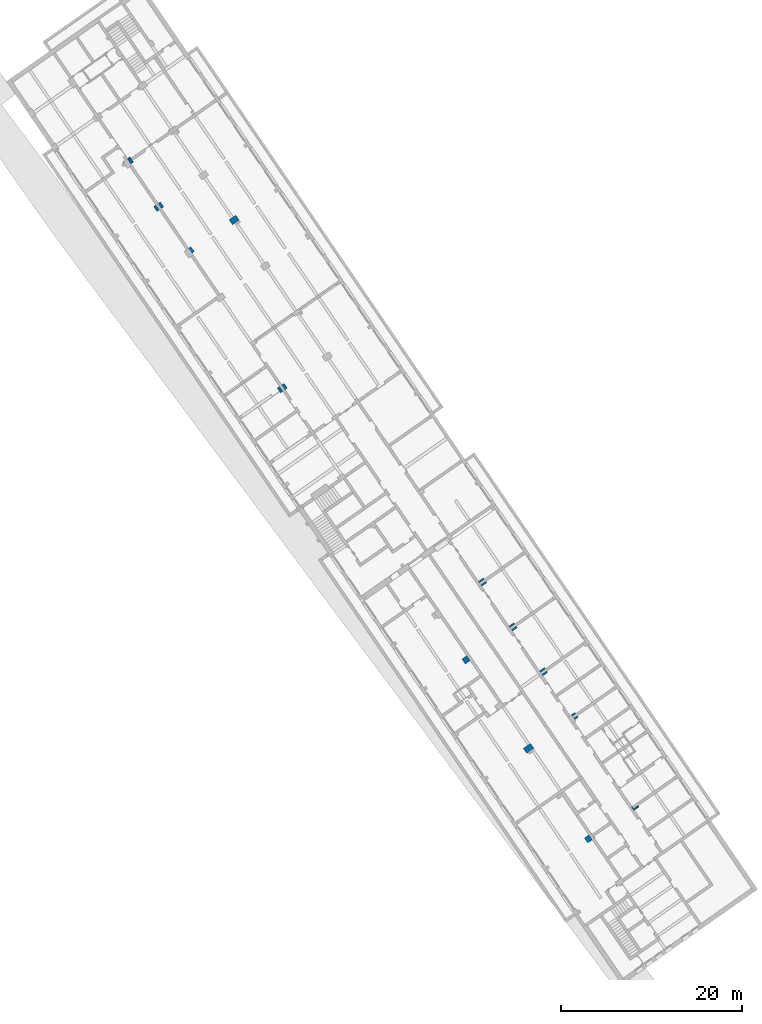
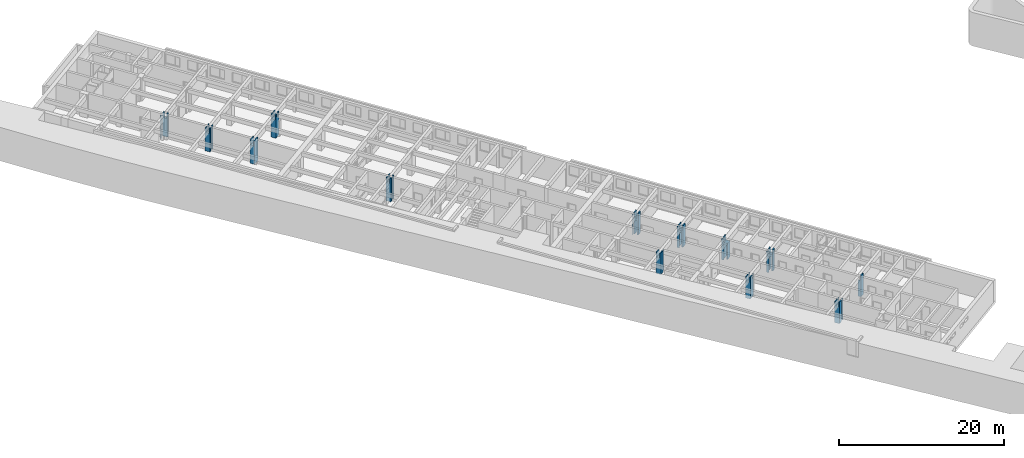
# One storey, part 86 of 112: 13 columns.
"""IFC2X3 building model written with IfcOpenShell, lengths in millimetres."""

from ifc_helpers import new_model, entity, si_unit, converted_unit, derived_unit, direction, frame, origin, place, context, subcontext, project, spatial, faceted_brep, source, transform, mapped, material, type_object, type_shapes, element, save


model = new_model("IFC2X3")

# Units and contexts
model_context = context("Model", 3, precision=0.01, world=origin(), true_north=direction((6.123031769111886e-17, 1.0)))
body_context = subcontext(model_context, "Body", "Model", "MODEL_VIEW")
ifc_project = project(units=[si_unit("LENGTHUNIT", "METRE", prefix="MILLI"), si_unit("AREAUNIT", "SQUARE_METRE"), si_unit("VOLUMEUNIT", "CUBIC_METRE"), converted_unit("PLANEANGLEUNIT", "DEGREE", entity("IfcRatioMeasure", 0.017453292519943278), si_unit("PLANEANGLEUNIT", "RADIAN"), dimensions=[0, 0, 0, 0, 0, 0, 0]), si_unit("MASSUNIT", "GRAM", prefix="KILO"), derived_unit("MASSDENSITYUNIT", [(si_unit("MASSUNIT", "GRAM", prefix="KILO"), 1), (si_unit("LENGTHUNIT", "METRE"), -3)]), derived_unit("MOMENTOFINERTIAUNIT", [(si_unit("LENGTHUNIT", "METRE"), 4)]), si_unit("TIMEUNIT", "SECOND"), si_unit("FREQUENCYUNIT", "HERTZ"), si_unit("THERMODYNAMICTEMPERATUREUNIT", "DEGREE_CELSIUS"), derived_unit("THERMALTRANSMITTANCEUNIT", [(si_unit("MASSUNIT", "GRAM", prefix="KILO"), 1), (si_unit("THERMODYNAMICTEMPERATUREUNIT", "KELVIN"), -1), (si_unit("TIMEUNIT", "SECOND"), -3)]), derived_unit("THERMALCONDUCTANCEUNIT", [(si_unit("MASSUNIT", "GRAM", prefix="KILO"), 1), (si_unit("LENGTHUNIT", "METRE"), 1), (si_unit("THERMODYNAMICTEMPERATUREUNIT", "KELVIN"), -1), (si_unit("TIMEUNIT", "SECOND"), -3)]), derived_unit("VOLUMETRICFLOWRATEUNIT", [(si_unit("LENGTHUNIT", "METRE"), 3), (si_unit("TIMEUNIT", "SECOND"), -1)]), derived_unit("MASSFLOWRATEUNIT", [(si_unit("MASSUNIT", "GRAM", prefix="KILO"), 1), (si_unit("TIMEUNIT", "SECOND"), -1)]), derived_unit("ROTATIONALFREQUENCYUNIT", [(si_unit("TIMEUNIT", "SECOND"), -1)]), si_unit("ELECTRICCURRENTUNIT", "AMPERE"), si_unit("ELECTRICVOLTAGEUNIT", "VOLT"), si_unit("POWERUNIT", "WATT"), converted_unit("FORCEUNIT", "KIP", entity("IfcRatioMeasure", 2.088543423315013e-05), si_unit("FORCEUNIT", "NEWTON"), dimensions=[1, 1, -2, 0, 0, 0, 0]), si_unit("ILLUMINANCEUNIT", "LUX"), si_unit("LUMINOUSFLUXUNIT", "LUMEN"), si_unit("LUMINOUSINTENSITYUNIT", "CANDELA"), derived_unit("USERDEFINED", [(si_unit("MASSUNIT", "GRAM", prefix="KILO"), -1), (si_unit("LENGTHUNIT", "METRE"), -2), (si_unit("TIMEUNIT", "SECOND"), 3), (si_unit("LUMINOUSFLUXUNIT", "LUMEN"), 1)]), derived_unit("USERDEFINED", [(si_unit("MASSUNIT", "GRAM", prefix="KILO"), 1), (si_unit("LENGTHUNIT", "METRE"), 3), (si_unit("TIMEUNIT", "SECOND"), -3), (si_unit("ELECTRICCURRENTUNIT", "AMPERE"), -2)]), derived_unit("USERDEFINED", [(si_unit("LENGTHUNIT", "METRE"), 2), (si_unit("TIMEUNIT", "SECOND"), -2)]), derived_unit("SOUNDPOWERUNIT", [(si_unit("MASSUNIT", "GRAM", prefix="KILO"), 1), (si_unit("LENGTHUNIT", "METRE"), 2), (si_unit("TIMEUNIT", "SECOND"), -3)]), derived_unit("SOUNDPRESSUREUNIT", [(si_unit("MASSUNIT", "GRAM", prefix="KILO"), 1), (si_unit("LENGTHUNIT", "METRE"), -1), (si_unit("TIMEUNIT", "SECOND"), -2)]), derived_unit("LINEARVELOCITYUNIT", [(si_unit("LENGTHUNIT", "METRE"), 1), (si_unit("TIMEUNIT", "SECOND"), -1)]), si_unit("PRESSUREUNIT", "PASCAL"), derived_unit("USERDEFINED", [(si_unit("LENGTHUNIT", "METRE"), -2), (si_unit("MASSUNIT", "GRAM", prefix="KILO"), 1), (si_unit("TIMEUNIT", "SECOND"), -2)]), derived_unit("LINEARFORCEUNIT", [(si_unit("MASSUNIT", "GRAM", prefix="KILO"), 1), (si_unit("LENGTHUNIT", "METRE"), 1), (si_unit("TIMEUNIT", "SECOND"), -2), (si_unit("LENGTHUNIT", "METRE"), -1)]), derived_unit("PLANARFORCEUNIT", [(si_unit("MASSUNIT", "GRAM", prefix="KILO"), 1), (si_unit("LENGTHUNIT", "METRE"), 1), (si_unit("TIMEUNIT", "SECOND"), -2), (si_unit("LENGTHUNIT", "METRE"), -2)]), derived_unit("SPECIFICHEATCAPACITYUNIT", [(si_unit("LENGTHUNIT", "METRE"), 2), (si_unit("TIMEUNIT", "SECOND"), -2), (si_unit("THERMODYNAMICTEMPERATUREUNIT", "KELVIN"), -1)]), derived_unit("VAPORPERMEABILITYUNIT", [(si_unit("TIMEUNIT", "SECOND"), 1), (si_unit("LENGTHUNIT", "METRE"), -1)]), derived_unit("DYNAMICVISCOSITYUNIT", [(si_unit("MASSUNIT", "GRAM", prefix="KILO"), 1), (si_unit("LENGTHUNIT", "METRE"), -1), (si_unit("TIMEUNIT", "SECOND"), -1)]), derived_unit("THERMALEXPANSIONCOEFFICIENTUNIT", [(si_unit("THERMODYNAMICTEMPERATUREUNIT", "KELVIN"), -1)])], contexts=[model_context])

# Site, building, storey
site_placement = place(None, frame((0.0, 0.0, 0.0), z_axis=(0.0, 0.0, 1.0), x_axis=(0.8191520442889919, 0.5735764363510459, 0.0)))
site = spatial("IfcSite", under=ifc_project, at=site_placement, Name="Default", CompositionType="ELEMENT")
building_placement = place(site_placement, origin())
building = spatial("IfcBuilding", under=site, at=building_placement, CompositionType="ELEMENT")
storey_placement = place(building_placement, frame((0.0, 0.0, -3600.0)))
storey = spatial("IfcBuildingStorey", under=building, at=storey_placement, Name="0.UG -3.60", CompositionType="ELEMENT", Elevation=-3600.0000000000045)

# Columns
ifc_material = material(Name="Analytical Wall Surface_CJC")
column_type_1 = type_object("IfcColumnType", Name="Columns_Rectangular:95x65", PredefinedType="COLUMN", material=ifc_material)
shared_shape_1 = source(origin(), body_context, "Body", "Brep", [
    faceted_brep([(0.0, 650.0, 3150.0), (0.0, 500.0, 3150.0), (601.7337061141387, 500.0, 3150.0), (603.6432989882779, 650.0, 3150.0), (0.0, 650.0, 0.0), (950.0, 650.0, 0.0), (950.0, 0.0, 0.0), (692.8303758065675, 0.0, 0.0), (192.83037580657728, 0.0, 0.0), (0.0, 0.0, 0.0), (0.0, 0.0, 3150.0), (0.0, 150.0, 3150.0), (0.0, 150.0, 2400.0), (0.0, 500.0, 2400.0), (950.0, 0.0, 3150.0), (895.3927058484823, 0.0, 3150.0), (895.3927058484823, 0.0, 2600.0), (595.368396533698, 0.0, 2600.0), (595.3683965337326, 0.0, 3150.0), (192.83037580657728, 0.0, 3150.0), (950.0, 650.0, 3150.0), (950.0, 500.0, 3150.0), (950.0, 500.0, 2400.0), (950.0, 150.0, 2400.0), (950.0, 150.0, 3150.0), (603.6432989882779, 650.0, 2600.0), (903.6676083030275, 650.0, 2600.0), (903.6676083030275, 650.0, 3150.0), (901.7580154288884, 500.0, 3150.0), (901.7580154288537, 500.0, 2600.0), (601.7337061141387, 500.0, 2600.0), (597.2779894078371, 150.0, 3150.0), (597.2779894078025, 150.0, 2600.0), (897.3022987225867, 150.0, 2600.0), (897.3022987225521, 150.0, 3150.0)], [[[0, 1, 2, 3]], [[4, 5, 6, 7, 8, 9]], [[4, 9, 10, 11, 12, 13, 1, 0]], [[9, 8, 7, 6, 14, 15, 16, 17, 18, 19, 10]], [[6, 5, 20, 21, 22, 23, 24, 14]], [[5, 4, 0, 3, 25, 26, 27, 20]], [[13, 22, 21, 28, 29, 30, 2, 1]], [[23, 12, 11, 31, 32, 33, 34, 24]], [[22, 13, 12, 23]], [[14, 24, 34, 15]], [[33, 16, 15, 34]], [[30, 25, 3, 2]], [[16, 33, 32, 17]], [[21, 20, 27, 28]], [[11, 10, 19, 18, 31]], [[26, 29, 28, 27]], [[17, 32, 31, 18]], [[29, 26, 25, 30]]]),
])
type_shapes(column_type_1, [shared_shape_1])
column_1_placement = place(storey_placement, frame((-217859.39284565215, 79071.35891435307, 300.0)))
element("IfcColumn", 1, at=column_1_placement, inside=storey, type_object=column_type_1, material=ifc_material, Name="Columns_Rectangular:95x65", ObjectType="Columns_Rectangular:95x65", context=body_context, shape_type="MappedRepresentation", body=[
    mapped(shared_shape_1, transform((0.0, 0.0, 0.0), scale=1.0)),
])
column_type_2 = type_object("IfcColumnType", Name="Columns_Rectangular:95x65", PredefinedType="COLUMN", material=ifc_material)
shared_shape_2 = source(origin(), body_context, "Body", "Brep", [
    faceted_brep([(0.0, 650.0, 3150.0), (0.0, 500.9657425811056, 3150.0), (652.2624359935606, 500.9657425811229, 3150.0), (654.1597343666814, 650.0, 3150.0), (0.0, 0.0, 0.0), (0.0, 650.0, 0.0), (654.1597343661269, 650.0, 0.0), (645.8848319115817, 0.0, 0.0), (0.0, 0.0, 3150.0), (0.0, 150.96574258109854, 3150.0), (0.0, 150.96574258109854, 2389.777747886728), (0.0, 500.9657425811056, 2389.777747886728), (645.8848319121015, 0.0, 2600.0), (645.8848319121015, 0.0, 3150.0), (654.1597343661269, 650.0, 2600.0), (652.2624359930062, 500.9657425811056, 2389.777747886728), (652.262435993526, 500.9657425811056, 2600.0), (647.8067192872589, 150.96574258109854, 3150.0), (647.8067192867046, 150.96574258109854, 2600.0), (647.8067192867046, 150.96574258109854, 2389.777747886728)], [[[0, 1, 2, 3]], [[4, 5, 6, 7]], [[5, 4, 8, 9, 10, 11, 1, 0]], [[8, 4, 7, 12, 13]], [[5, 0, 3, 14, 6]], [[1, 11, 15, 16, 2]], [[10, 9, 17, 18, 19]], [[3, 2, 16, 14]], [[9, 8, 13, 17]], [[13, 12, 18, 17]], [[7, 6, 14, 16, 15, 19, 18, 12]], [[11, 10, 19, 15]]]),
    faceted_brep([(950.0, 0.0, 3150.0), (950.0, 0.0, 0.0), (950.0, 321.34012666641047, 0.0), (950.0, 321.34012666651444, 2389.777747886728), (950.0, 150.96574258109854, 2389.777747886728), (950.0, 150.96574258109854, 3150.0), (947.8310286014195, 150.96574258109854, 2389.7777478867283), (947.8310286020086, 150.96574258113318, 3150.0), (945.909141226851, 0.0, 3150.0), (945.909141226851, 0.0, 2600.0), (947.8310286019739, 150.96574258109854, 2600.0), (945.9091412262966, 0.0, 0.0)], [[[0, 1, 2, 3, 4, 5]], [[4, 3, 6]], [[0, 5, 7, 8]], [[9, 8, 7, 10]], [[2, 11, 9, 10, 6, 3]], [[2, 1, 11]], [[1, 0, 8, 9, 11]], [[5, 4, 6, 10, 7]]]),
])
type_shapes(column_type_2, [shared_shape_2])
column_2_placement = place(storey_placement, frame((-217757.15414560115, 91070.39317177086, 300.0)))
element("IfcColumn", 2, at=column_2_placement, inside=storey, type_object=column_type_2, material=ifc_material, Name="Columns_Rectangular:95x65", ObjectType="Columns_Rectangular:95x65", context=body_context, shape_type="MappedRepresentation", body=[
    mapped(shared_shape_2, transform((0.0, 0.0, 0.0), scale=1.0)),
])
column_type_3 = type_object("IfcColumnType", Name="Columns_Rectangular:95x65", PredefinedType="COLUMN", material=ifc_material)
shared_shape_3 = source(origin(), body_context, "Body", "Brep", [
    faceted_brep([(604.1354965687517, 650.0, 3150.0), (0.0, 650.0, 3150.0), (0.0, 501.4526929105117, 3150.0), (602.2443973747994, 501.45269291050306, 3150.0), (0.0, 0.0, 0.0), (0.0, 650.0, 0.0), (604.135496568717, 650.0, 0.0), (595.8605941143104, 0.0, 0.0), (0.0, 0.0, 3150.0), (0.0, 151.4526929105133, 3150.0), (0.0, 151.45269291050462, 2400.0), (0.0, 501.4526929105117, 2400.0), (595.8605941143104, 0.0, 3150.0), (602.244397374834, 501.45269291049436, 2400.0), (597.788680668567, 151.45269290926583, 2400.0), (597.788680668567, 151.45269291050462, 3150.0)], [[[0, 1, 2, 3]], [[4, 5, 6, 7]], [[5, 4, 8, 9, 10, 11, 2, 1]], [[8, 4, 7, 12]], [[5, 1, 0, 6]], [[12, 7, 6, 0, 3, 13, 14, 15]], [[14, 10, 9, 15]], [[8, 12, 15, 9]], [[13, 11, 10, 14]], [[11, 13, 3, 2]]]),
    faceted_brep([(950.0, 0.0, 3150.0), (950.0, 0.0, 0.0), (950.0, 201.45269291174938, 0.0), (950.0, 201.45269291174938, 2100.0), (950.0, 501.4526929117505, 2100.0), (950.0, 501.4526929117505, 0.0), (950.0, 650.0, 0.0), (950.0, 650.0, 3150.0), (950.0, 501.4526929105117, 3150.0), (950.0, 501.45269291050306, 2400.0), (950.0, 151.4526929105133, 2400.0), (950.0, 151.45269291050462, 3150.0), (895.8849034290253, 0.0, 0.0), (895.8849034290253, 0.0, 3150.0), (897.8129899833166, 151.45269290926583, 3150.0), (897.8129899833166, 151.45269291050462, 2400.0), (902.2687066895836, 501.4526929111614, 2400.0), (902.2687066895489, 501.45269291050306, 3150.0), (904.1598058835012, 650.0, 3150.0), (904.1598058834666, 650.0, 0.0), (902.2687066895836, 501.4526929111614, 0.0), (902.2687066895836, 501.4526929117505, 2100.0), (898.4495209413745, 201.45269291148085, 2100.0), (898.4495209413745, 201.45269291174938, 0.0)], [[[0, 1, 2, 3, 4, 5, 6, 7, 8, 9, 10, 11]], [[12, 13, 14, 15, 16, 17, 18, 19, 20, 21, 22, 23]], [[4, 21, 20, 5]], [[22, 3, 2, 23]], [[21, 4, 3, 22]], [[7, 18, 17, 8]], [[16, 9, 8, 17]], [[9, 16, 15, 10]], [[10, 15, 14, 11]], [[13, 0, 11, 14]], [[1, 12, 23, 2]], [[1, 0, 13, 12]], [[7, 6, 19, 18]], [[19, 6, 5, 20]]]),
])
type_shapes(column_type_3, [shared_shape_3])
column_3_placement = place(storey_placement, frame((-218012.67096684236, 67069.90622144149, 300.0)))
element("IfcColumn", 3, at=column_3_placement, inside=storey, type_object=column_type_3, material=ifc_material, Name="Columns_Rectangular:95x65", ObjectType="Columns_Rectangular:95x65", context=body_context, shape_type="MappedRepresentation", body=[
    mapped(shared_shape_3, transform((0.0, 0.0, 0.0), scale=1.0)),
])
column_type_4 = type_object("IfcColumnType", Name="Columns_Rectangular:95x65", PredefinedType="COLUMN", material=ifc_material)
shared_shape_4 = source(origin(), body_context, "Body", "Brep", [
    faceted_brep([(0.0, 650.0, 3150.0), (0.0, 500.4861469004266, 3150.0), (2.207712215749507, 500.4861469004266, 3150.0), (4.111116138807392, 650.0, 3150.0), (0.0, 650.0, 0.0), (0.0, 327.06864160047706, 0.0), (0.0, 327.06864160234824, 2400.0), (0.0, 500.4861469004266, 2400.0), (4.111116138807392, 650.0, 0.0), (2.207712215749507, 500.4861469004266, 2400.0)], [[[0, 1, 2, 3]], [[0, 4, 5, 6, 7, 1]], [[4, 0, 3, 8]], [[3, 2, 9, 6, 5, 8]], [[1, 7, 9, 2]], [[7, 6, 9]], [[4, 8, 5]]]),
    faceted_brep([(950.0, 175.48614690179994, 0.0), (950.0, 0.0, 0.0), (495.8767292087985, 0.0, 0.0), (498.1107765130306, 175.48614690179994, 0.0), (950.0, 0.0, 3150.0), (495.8767292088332, 0.0, 3150.0), (950.0, 175.48614690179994, 2100.0), (950.0, 475.486146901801, 2100.0), (950.0, 475.486146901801, 0.0), (950.0, 650.0, 0.0), (950.0, 650.0, 3150.0), (950.0, 500.4861469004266, 3150.0), (950.0, 500.4861469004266, 2400.0), (950.0, 150.48614690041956, 2400.0), (950.0, 150.48614690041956, 3150.0), (498.1107765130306, 175.48614690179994, 2100.0), (501.9299622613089, 475.486146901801, 2100.0), (501.9299622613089, 475.486146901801, 0.0), (502.2482277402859, 500.4861469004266, 3150.0), (502.2482277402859, 500.4861469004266, 2400.0), (497.79251103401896, 150.48614690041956, 2400.0), (497.7925110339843, 150.48614690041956, 3150.0), (504.07060389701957, 643.6352061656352, 3150.0), (504.07060389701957, 643.6352061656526, 0.0), (304.1354254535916, 650.0, 3150.0), (304.086808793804, 646.1811236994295, 3150.0), (304.086808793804, 646.1811236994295, 0.0), (304.1354254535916, 650.0, 0.0)], [[[0, 1, 2, 3]], [[1, 4, 5, 2]], [[4, 1, 0, 6, 7, 8, 9, 10, 11, 12, 13, 14]], [[15, 6, 0, 3]], [[7, 16, 17, 8]], [[6, 15, 16, 7]], [[12, 11, 18, 19]], [[14, 13, 20, 21]], [[13, 12, 19, 20]], [[4, 14, 21, 5]], [[18, 22, 23, 17, 16, 15, 3, 2, 5, 21, 20, 19]], [[11, 10, 24, 25, 22, 18]], [[23, 22, 25, 26]], [[24, 27, 26, 25]], [[9, 8, 17, 23, 26, 27]], [[10, 9, 27, 24]]]),
])
type_shapes(column_type_4, [shared_shape_4])
column_4_placement = place(storey_placement, frame((-211859.42928408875, 79070.87276745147, 300.0)))
element("IfcColumn", 4, at=column_4_placement, inside=storey, type_object=column_type_4, material=ifc_material, Name="Columns_Rectangular:95x65", ObjectType="Columns_Rectangular:95x65", context=body_context, shape_type="MappedRepresentation", body=[
    mapped(shared_shape_4, transform((0.0, 0.0, 0.0), scale=1.0)),
])
column_type_5 = type_object("IfcColumnType", Name="Columns_Rectangular:65x45", PredefinedType="COLUMN", material=ifc_material)
shared_shape_5 = source(origin(), body_context, "Body", "Brep", [
    faceted_brep([(0.0, 0.0, 3150.0), (650.0, 0.0, 3150.0), (650.0, 125.0, 3150.0), (51.54270876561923, 125.0, 3150.0), (0.0, 125.0, 3150.0), (650.0, 0.0, 0.0), (0.0, 0.0, 0.0), (0.0, 450.0, 0.0), (55.680159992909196, 450.0, 0.0), (51.86097424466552, 150.0, 0.0), (650.0, 150.0, 0.0), (55.68015999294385, 450.0, 2400.0), (0.0, 450.0, 2400.0), (0.0, 125.0, 2400.0), (650.0, 150.0, 2400.0), (650.0, 125.0, 2400.0), (51.86097424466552, 150.0, 2400.0), (51.54270876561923, 125.0, 2400.0)], [[[0, 1, 2, 3, 4]], [[5, 6, 7, 8, 9, 10]], [[11, 8, 7, 12]], [[7, 6, 0, 4, 13, 12]], [[1, 0, 6, 5]], [[1, 5, 10, 14, 15, 2]], [[9, 16, 14, 10]], [[16, 9, 8, 11]], [[15, 17, 13, 4, 3, 2]], [[13, 17, 15, 14, 16, 11, 12]]]),
])
type_shapes(column_type_5, [shared_shape_5])
column_5_placement = place(storey_placement, frame((-211765.96311796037, 67096.3589143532, 300.0)))
element("IfcColumn", 5, at=column_5_placement, inside=storey, type_object=column_type_5, material=ifc_material, Name="Columns_Rectangular:65x45", ObjectType="Columns_Rectangular:65x45", context=body_context, shape_type="MappedRepresentation", body=[
    mapped(shared_shape_5, transform((0.0, 0.0, 0.0), scale=1.0)),
])
column_type_6 = type_object("IfcColumnType", Name="Columns_Rectangular:95x65", PredefinedType="COLUMN", material=ifc_material)
shared_shape_6 = source(origin(), body_context, "Body", "Brep", [
    faceted_brep([(0.0, 650.0, 3150.0), (0.0, 500.0, 3150.0), (2.201523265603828, 500.0, 3150.0), (4.11111613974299, 650.0, 3150.0), (0.0, 650.0, 0.0), (0.0, 327.06864153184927, 0.0), (0.0, 327.06864153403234, 2100.0), (0.0, 500.0, 2100.0), (0.0, 500.0, 2400.0), (4.11111613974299, 650.0, 0.0), (2.201523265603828, 500.0, 2100.0), (2.201523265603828, 500.0, 2400.0)], [[[0, 1, 2, 3]], [[0, 4, 5, 6, 7, 8, 1]], [[4, 0, 3, 9]], [[7, 10, 11, 8]], [[10, 7, 6]], [[3, 2, 11, 10, 6, 5, 9]], [[1, 8, 11, 2]], [[4, 9, 5]]]),
    faceted_brep([(950.0, 175.0, 0.0), (950.0, 0.0, 0.0), (295.86052299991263, 0.0, 0.0), (298.0883813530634, 175.0, 0.0), (950.0, 0.0, 2400.0), (295.86052299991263, 0.0, 2400.0), (950.0, 650.0, 0.0), (950.0, 650.0, 3150.0), (950.0, 500.0, 3150.0), (950.0, 500.0, 2400.0), (950.0, 175.0, 2100.0), (950.0, 475.0, 2100.0), (950.0, 475.0, 0.0), (301.9075671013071, 475.0, 2100.0), (301.9075671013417, 475.0, 0.0), (298.0883813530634, 175.0, 2100.0), (302.22583258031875, 500.0, 2400.0), (302.22583258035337, 500.0, 3150.0), (304.1354254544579, 650.0, 3150.0), (304.1354254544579, 650.0, 0.0)], [[[0, 1, 2, 3]], [[1, 4, 5, 2]], [[6, 7, 8, 9, 4, 1, 0, 10, 11, 12]], [[11, 13, 14, 12]], [[15, 10, 0, 3]], [[13, 11, 10, 15]], [[4, 9, 16, 5]], [[9, 8, 17, 16]], [[17, 18, 19, 14, 13, 15, 3, 2, 5, 16]], [[8, 7, 18, 17]], [[6, 12, 14, 19]], [[7, 6, 19, 18]]]),
])
type_shapes(column_type_6, [shared_shape_6])
column_6_placement = place(storey_placement, frame((-211783.03938017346, 85071.35891435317, 300.0)))
element("IfcColumn", 6, at=column_6_placement, inside=storey, type_object=column_type_6, material=ifc_material, Name="Columns_Rectangular:95x65", ObjectType="Columns_Rectangular:95x65", context=body_context, shape_type="MappedRepresentation", body=[
    mapped(shared_shape_6, transform((0.0, 0.0, 0.0), scale=1.0)),
])
column_type_7 = type_object("IfcColumnType", Name="Columns_Rectangular:95x65", PredefinedType="COLUMN", material=ifc_material)
shared_shape_7 = source(origin(), body_context, "Body", "Brep", [
    faceted_brep([(0.0, 650.0, 3150.0), (0.0, 500.0, 3150.0), (2.2015232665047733, 500.0, 3150.0), (4.111116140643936, 650.0, 3150.0), (0.0, 650.0, 0.0), (0.0, 327.0686414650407, 0.0), (0.0, 327.06864146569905, 2389.777747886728), (0.0, 500.0, 2389.777747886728), (4.111116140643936, 650.0, 0.0), (2.2015232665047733, 500.0, 2389.777747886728)], [[[0, 1, 2, 3]], [[0, 4, 5, 6, 7, 1]], [[4, 0, 3, 8]], [[3, 2, 9, 6, 5, 8]], [[1, 7, 9, 2]], [[7, 6, 9]], [[4, 8, 5]]]),
    faceted_brep([(950.0, 175.0, 0.0), (950.0, 0.0, 0.0), (295.86052300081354, 0.0, 0.0), (298.0883813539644, 175.0, 0.0), (950.0, 0.0, 3150.0), (295.86052300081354, 0.0, 3150.0), (950.0, 175.0, 2100.0), (950.0, 475.0, 2100.0), (950.0, 475.0, 0.0), (950.0, 650.0, 0.0), (950.0, 650.0, 3150.0), (950.0, 500.0, 3150.0), (950.0, 500.0, 2389.777747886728), (950.0, 150.0, 2389.777747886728), (950.0, 150.0, 3150.0), (302.22583258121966, 500.0, 3150.0), (302.22583258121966, 500.0, 2389.777747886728), (297.7701158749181, 150.0, 2389.777747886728), (297.7701158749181, 150.0, 3150.0), (301.907567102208, 475.0, 2100.0), (301.907567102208, 475.0, 0.0), (298.0883813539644, 175.0, 2100.0), (304.13542545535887, 650.0, 3150.0), (304.13542545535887, 650.0, 0.0)], [[[0, 1, 2, 3]], [[1, 4, 5, 2]], [[4, 1, 0, 6, 7, 8, 9, 10, 11, 12, 13, 14]], [[12, 11, 15, 16]], [[14, 13, 17, 18]], [[13, 12, 16, 17]], [[8, 7, 19, 20]], [[6, 0, 3, 21]], [[19, 7, 6, 21]], [[4, 14, 18, 5]], [[15, 22, 23, 20, 19, 21, 3, 2, 5, 18, 17, 16]], [[11, 10, 22, 15]], [[9, 8, 20, 23]], [[10, 9, 23, 22]]]),
])
type_shapes(column_type_7, [shared_shape_7])
column_7_placement = place(storey_placement, frame((-211706.65566520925, 91071.35891435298, 300.0)))
element("IfcColumn", 7, at=column_7_placement, inside=storey, type_object=column_type_7, material=ifc_material, Name="Columns_Rectangular:95x65", ObjectType="Columns_Rectangular:95x65", context=body_context, shape_type="MappedRepresentation", body=[
    mapped(shared_shape_7, transform((0.0, 0.0, 0.0), scale=1.0)),
])
column_type_8 = type_object("IfcColumnType", Name="Columns_Rectangular:95x65", PredefinedType="COLUMN", material=ifc_material)
shared_shape_8 = source(origin(), body_context, "Body", "Brep", [
    faceted_brep([(0.4948311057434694, 650.0, 3150.0), (0.0, 650.0, 3150.0), (0.0, 611.1306332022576, 3150.0), (0.0, 650.0, 0.0), (0.0, 611.1306332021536, 0.0), (0.4948311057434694, 650.0, 0.0)], [[[0, 1, 2]], [[1, 3, 4, 2]], [[3, 1, 0, 5]], [[0, 2, 4, 5]], [[3, 5, 4]]]),
    faceted_brep([(950.0, 175.0, 0.0), (950.0, 0.0, 0.0), (292.2442379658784, 0.0, 0.0), (294.4720963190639, 175.0, 0.0), (950.0, 0.0, 3150.0), (292.2442379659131, 0.0, 3150.0), (950.0, 175.0, 2100.0), (950.0, 475.0, 2100.0), (950.0, 475.0, 0.0), (950.0, 650.0, 0.0), (950.0, 650.0, 3150.0), (950.0, 500.0, 3150.0), (950.0, 500.0, 2400.0), (950.0, 150.0, 2400.0), (950.0, 150.0, 3150.0), (298.60954754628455, 500.0, 3150.0), (298.6095475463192, 500.0, 2400.0), (294.15383083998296, 150.0, 2400.0), (294.15383084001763, 150.0, 3150.0), (298.2912820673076, 475.0, 2100.0), (298.2912820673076, 475.0, 0.0), (294.4720963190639, 175.0, 2100.0), (300.51914042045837, 650.0, 3150.0), (300.51914042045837, 650.0, 0.0)], [[[0, 1, 2, 3]], [[1, 4, 5, 2]], [[4, 1, 0, 6, 7, 8, 9, 10, 11, 12, 13, 14]], [[12, 11, 15, 16]], [[14, 13, 17, 18]], [[13, 12, 16, 17]], [[7, 19, 20, 8]], [[21, 6, 0, 3]], [[19, 7, 6, 21]], [[4, 14, 18, 5]], [[15, 22, 23, 20, 19, 21, 3, 2, 5, 18, 17, 16]], [[11, 10, 22, 15]], [[9, 8, 20, 23]], [[10, 9, 23, 22]]]),
])
type_shapes(column_type_8, [shared_shape_8])
column_8_placement = place(storey_placement, frame((-211626.65566520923, 97071.35891435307, 300.0)))
element("IfcColumn", 8, at=column_8_placement, inside=storey, type_object=column_type_8, material=ifc_material, Name="Columns_Rectangular:95x65", ObjectType="Columns_Rectangular:95x65", context=body_context, shape_type="MappedRepresentation", body=[
    mapped(shared_shape_8, transform((0.0, 0.0, 0.0), scale=1.0)),
])
column_type_9 = type_object("IfcColumnType", Name="Columns_Rectangular:90x65", PredefinedType="COLUMN", material=ifc_material)
shared_shape_9 = source(origin(), body_context, "Body", "Brep", [
    faceted_brep([(0.0, 650.0, 3450.0), (0.0, 500.0, 3450.0), (277.22583258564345, 500.0, 3450.0), (279.135425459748, 650.0, 3450.0), (0.0, 650.0, 0.0), (900.0, 650.0, 0.0), (900.0, 0.0, 0.0), (890.7743526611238, 0.0, 0.0), (490.7743526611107, 0.0, 0.0), (0.0, 0.0, 0.0), (0.0, 0.0, 3450.0), (0.0, 150.0, 3450.0), (0.0, 150.0, 2700.0), (0.0, 500.0, 2700.0), (900.0, 0.0, 3450.0), (570.8848323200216, 0.0, 3450.0), (570.8848323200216, 0.0, 2900.0), (270.860523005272, 0.0, 2900.0), (270.860523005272, 0.0, 3450.0), (900.0, 650.0, 3450.0), (900.0, 500.0, 3450.0), (900.0, 500.0, 2700.0), (900.0, 150.0, 2700.0), (900.0, 150.0, 3450.0), (279.1354254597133, 650.0, 2900.0), (579.1597347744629, 650.0, 2900.0), (579.1597347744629, 650.0, 3450.0), (577.2501419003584, 500.0, 3450.0), (577.2501419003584, 500.0, 2900.0), (277.2258325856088, 500.0, 2900.0), (272.77011587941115, 150.0, 3450.0), (272.77011587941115, 150.0, 2900.0), (572.7944251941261, 150.0, 2900.0), (572.7944251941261, 150.0, 3450.0)], [[[0, 1, 2, 3]], [[4, 5, 6, 7, 8, 9]], [[4, 9, 10, 11, 12, 13, 1, 0]], [[9, 8, 7, 6, 14, 15, 16, 17, 18, 10]], [[6, 5, 19, 20, 21, 22, 23, 14]], [[5, 4, 0, 3, 24, 25, 26, 19]], [[1, 13, 21, 20, 27, 28, 29, 2]], [[12, 11, 30, 31, 32, 33, 23, 22]], [[14, 23, 33, 15]], [[21, 13, 12, 22]], [[32, 16, 15, 33]], [[29, 24, 3, 2]], [[16, 32, 31, 17]], [[20, 19, 26, 27]], [[11, 10, 18, 30]], [[25, 28, 27, 26]], [[17, 31, 30, 18]], [[28, 25, 24, 29]]]),
])
type_shapes(column_type_9, [shared_shape_9])
column_9_placement = place(storey_placement, frame((-210986.56385903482, 145671.35891435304, 0.0)))
element("IfcColumn", 9, at=column_9_placement, inside=storey, type_object=column_type_9, material=ifc_material, Name="Columns_Rectangular:90x65", ObjectType="Columns_Rectangular:90x65", context=body_context, shape_type="MappedRepresentation", body=[
    mapped(shared_shape_9, transform((0.0, 0.0, 0.0), scale=1.0)),
])
column_type_10 = type_object("IfcColumnType", Name="Columns_Rectangular:90x65", PredefinedType="COLUMN", material=ifc_material)
shared_shape_10 = source(origin(), body_context, "Body", "Brep", [
    faceted_brep([(4.094893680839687, 650.0, 3450.0), (0.0, 650.0, 3450.0), (0.0, 500.0, 3450.0), (2.1849817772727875, 500.0, 3450.0), (0.0, 650.0, 0.0), (4.094893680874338, 650.0, 0.0), (2.1849817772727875, 500.0, 0.0), (0.0, 500.0, 0.0), (2.184981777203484, 500.0, 2700.0)], [[[0, 1, 2, 3]], [[4, 5, 6, 7]], [[1, 4, 7, 2]], [[4, 1, 0, 5]], [[5, 0, 3, 8, 6]], [[3, 2, 7, 6, 8]]]),
    faceted_brep([(900.0, 0.0, 0.0), (900.0, 0.0, 3450.0), (595.8672436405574, 0.0, 3450.0), (595.8672436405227, 0.0, 0.0), (900.0, 175.0, 0.0), (900.0, 475.0, 0.0), (900.0, 650.0, 0.0), (900.0, 650.0, 3450.0), (900.0, 500.0, 3450.0), (900.0, 500.0, 2700.0), (900.0, 150.0, 2700.0), (900.0, 150.0, 3450.0), (604.1435285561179, 650.0, 0.0), (597.7771555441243, 150.0, 3450.0), (597.7771555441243, 150.0, 2700.0), (602.2336166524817, 500.0, 2700.0), (602.2336166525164, 500.0, 3450.0), (604.1435285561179, 650.0, 3450.0)], [[[0, 1, 2, 3]], [[0, 4, 5, 6, 7, 8, 9, 10, 11, 1]], [[12, 3, 2, 13, 14, 15, 16, 17]], [[7, 17, 16, 8]], [[6, 5, 4, 0, 3, 12]], [[7, 6, 12, 17]], [[15, 9, 8, 16]], [[10, 14, 13, 11]], [[2, 1, 11, 13]], [[9, 15, 14, 10]]]),
])
type_shapes(column_type_10, [shared_shape_10])
column_10_placement = place(storey_placement, frame((-216909.28261540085, 157671.35891435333, 0.0)))
element("IfcColumn", 10, at=column_10_placement, inside=storey, type_object=column_type_10, material=ifc_material, Name="Columns_Rectangular:90x65", ObjectType="Columns_Rectangular:90x65", context=body_context, shape_type="MappedRepresentation", body=[
    mapped(shared_shape_10, transform((0.0, 0.0, 0.0), scale=1.0)),
])
column_type_11 = type_object("IfcColumnType", Name="Columns_Rectangular:90x65", PredefinedType="COLUMN", material=ifc_material)
shared_shape_11 = source(origin(), body_context, "Body", "Brep", [
    faceted_brep([(303.55389716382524, 650.0, 3450.0), (0.0, 650.0, 3450.0), (0.0, 500.0, 3450.0), (301.64265621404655, 500.0, 3450.0), (0.0, 0.0, 0.0), (0.0, 650.0, 0.0), (303.5538971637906, 650.0, 0.0), (295.2718530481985, 0.0, 0.0), (0.0, 0.0, 3450.0), (0.0, 150.0, 3450.0), (0.0, 150.0, 2700.0), (0.0, 500.0, 2700.0), (295.2718530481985, 0.0, 3450.0), (301.64265621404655, 500.0, 2700.0), (297.18309399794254, 150.0, 2700.0), (297.18309399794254, 150.0, 3450.0)], [[[0, 1, 2, 3]], [[4, 5, 6, 7]], [[5, 4, 8, 9, 10, 11, 2, 1]], [[8, 4, 7, 12]], [[5, 1, 0, 6]], [[7, 6, 0, 3, 13, 14, 15, 12]], [[14, 10, 9, 15]], [[8, 12, 15, 9]], [[11, 13, 3, 2]], [[13, 11, 10, 14]]]),
    faceted_brep([(900.0, 0.0, 0.0), (900.0, 650.0, 0.0), (900.0, 650.0, 3450.0), (900.0, 500.0, 3450.0), (900.0, 500.0, 2700.0), (900.0, 150.0, 2700.0), (900.0, 150.0, 3450.0), (900.0, 0.0, 3450.0), (603.5782484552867, 650.0, 0.0), (595.2962043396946, 0.0, 0.0), (595.2962043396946, 0.0, 3450.0), (597.207445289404, 150.0, 3450.0), (597.2074452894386, 150.0, 2700.0), (601.6670075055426, 500.0, 2700.0), (601.6670075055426, 500.0, 3450.0), (603.5782484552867, 650.0, 3450.0)], [[[0, 1, 2, 3, 4, 5, 6, 7]], [[8, 9, 10, 11, 12, 13, 14, 15]], [[2, 15, 14, 3]], [[1, 0, 9, 8]], [[0, 7, 10, 9]], [[2, 1, 8, 15]], [[13, 4, 3, 14]], [[4, 13, 12, 5]], [[10, 7, 6, 11]], [[5, 12, 11, 6]]]),
])
type_shapes(column_type_11, [shared_shape_11])
column_11_placement = place(storey_placement, frame((-216985.15899901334, 151671.35891435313, 0.0)))
element("IfcColumn", 11, at=column_11_placement, inside=storey, type_object=column_type_11, material=ifc_material, Name="Columns_Rectangular:90x65", ObjectType="Columns_Rectangular:90x65", context=body_context, shape_type="MappedRepresentation", body=[
    mapped(shared_shape_11, transform((0.0, 0.0, 0.0), scale=1.0)),
])
column_type_12 = type_object("IfcColumnType", Name="Columns_Rectangular:90x65", PredefinedType="COLUMN", material=ifc_material)
shared_shape_12 = source(origin(), body_context, "Body", "Brep", [
    faceted_brep([(900.0, 650.0, 3450.0), (0.0, 650.0, 3450.0), (0.0, 500.0, 3450.0), (900.0, 500.0, 3450.0), (0.0, 650.0, 0.0), (900.0, 650.0, 0.0), (900.0, 0.0, 0.0), (0.0, 0.0, 0.0), (0.0, 0.0, 3450.0), (0.0, 150.0, 3450.0), (0.0, 150.0, 2700.0), (0.0, 500.0, 2700.0), (900.0, 0.0, 3450.0), (900.0, 500.0, 2700.0), (900.0, 150.0, 2700.0), (900.0, 150.0, 3450.0)], [[[0, 1, 2, 3]], [[4, 5, 6, 7]], [[4, 7, 8, 9, 10, 11, 2, 1]], [[12, 8, 7, 6]], [[6, 5, 0, 3, 13, 14, 15, 12]], [[1, 0, 5, 4]], [[11, 13, 3, 2]], [[14, 10, 9, 15]], [[8, 12, 15, 9]], [[13, 11, 10, 14]]]),
])
type_shapes(column_type_12, [shared_shape_12])
column_12_placement = place(storey_placement, frame((-217062.8671216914, 145671.35891435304, 0.0)))
element("IfcColumn", 12, at=column_12_placement, inside=storey, type_object=column_type_12, material=ifc_material, Name="Columns_Rectangular:90x65", ObjectType="Columns_Rectangular:90x65", context=body_context, shape_type="MappedRepresentation", body=[
    mapped(shared_shape_12, transform((0.0, 0.0, 0.0), scale=1.0)),
])
column_type_13 = type_object("IfcColumnType", Name="Columns_Rectangular:90x65", PredefinedType="COLUMN", material=ifc_material)
shared_shape_13 = source(origin(), body_context, "Body", "Brep", [
    faceted_brep([(300.76366538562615, 650.0, 3450.0), (0.0, 650.0, 3450.0), (0.0, 500.0, 3450.0), (298.854072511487, 500.0, 3450.0), (0.0, 0.0, 0.0), (0.0, 650.0, 0.0), (300.76366538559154, 650.0, 0.0), (292.48876293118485, 0.0, 0.0), (0.0, 0.0, 3450.0), (0.0, 150.0, 3450.0), (0.0, 150.0, 2700.0), (0.0, 175.0, 2700.0), (0.0, 475.0, 2700.0), (0.0, 500.0, 2700.0), (292.48876293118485, 0.0, 3450.0), (298.8540725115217, 500.0, 2700.0), (294.3983558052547, 150.0, 2700.0), (294.39835580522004, 150.0, 3450.0)], [[[0, 1, 2, 3]], [[4, 5, 6, 7]], [[5, 4, 8, 9, 10, 11, 12, 13, 2, 1]], [[8, 4, 7, 14]], [[5, 1, 0, 6]], [[7, 6, 0, 3, 15, 16, 17, 14]], [[16, 10, 9, 17]], [[8, 14, 17, 9]], [[13, 15, 3, 2]], [[15, 13, 12, 11, 10, 16]]]),
    faceted_brep([(900.0, 0.0, 0.0), (900.0, 650.0, 0.0), (900.0, 650.0, 3450.0), (900.0, 500.0, 3450.0), (900.0, 500.0, 2700.0), (900.0, 150.0, 2700.0), (900.0, 150.0, 3450.0), (900.0, 0.0, 3450.0), (600.7879747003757, 650.0, 0.0), (592.5130722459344, 0.0, 0.0), (592.5130722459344, 0.0, 3450.0), (594.4226651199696, 150.0, 3450.0), (594.4226651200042, 150.0, 2700.0), (598.8783818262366, 500.0, 2700.0), (598.8783818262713, 500.0, 3450.0), (600.7879747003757, 650.0, 3450.0)], [[[0, 1, 2, 3, 4, 5, 6, 7]], [[8, 9, 10, 11, 12, 13, 14, 15]], [[1, 0, 9, 8]], [[13, 4, 3, 14]], [[4, 13, 12, 5]], [[2, 15, 14, 3]], [[0, 7, 10, 9]], [[2, 1, 8, 15]], [[10, 7, 6, 11]], [[5, 12, 11, 6]]]),
])
type_shapes(column_type_13, [shared_shape_13])
column_13_placement = place(storey_placement, frame((-217291.66482211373, 127371.35891435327, 0.0)))
element("IfcColumn", 13, at=column_13_placement, inside=storey, type_object=column_type_13, material=ifc_material, Name="Columns_Rectangular:90x65", ObjectType="Columns_Rectangular:90x65", context=body_context, shape_type="MappedRepresentation", body=[
    mapped(shared_shape_13, transform((0.0, 0.0, 0.0), scale=1.0)),
])

save(model, "model.ifc")
